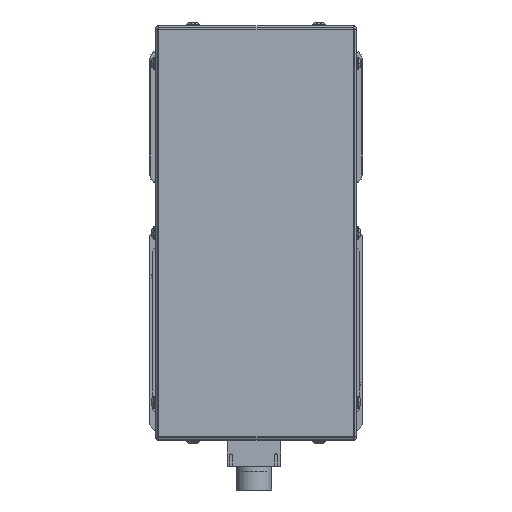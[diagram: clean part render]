
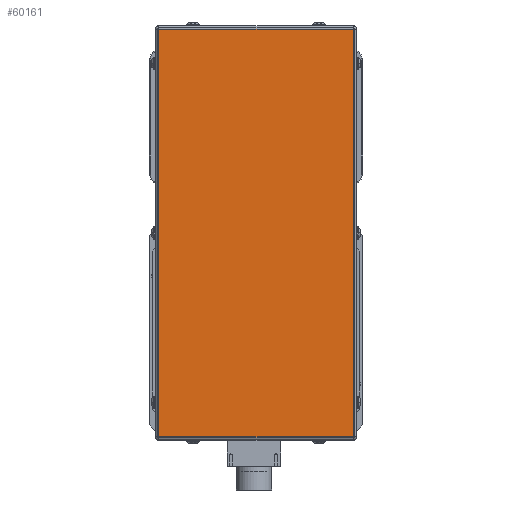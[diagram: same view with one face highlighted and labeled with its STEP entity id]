
A CAD part, front view. The second image highlights one B-rep face of the part: STEP entity #60161.
In plain terms, the highlighted planar face has unit normal (0, -1, 0).
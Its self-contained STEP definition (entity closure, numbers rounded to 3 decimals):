
#59066=DIRECTION('',(1.,0.,0.));
#59067=VECTOR('',#59066,344.);
#59068=CARTESIAN_POINT('',(-172.,-52.5,-82.));
#59069=LINE('',#59068,#59067);
#59070=DIRECTION('',(0.,0.,-1.));
#59071=VECTOR('',#59070,164.);
#59072=CARTESIAN_POINT('',(-172.,-52.5,82.));
#59073=LINE('',#59072,#59071);
#59074=DIRECTION('',(-1.,0.,0.));
#59075=VECTOR('',#59074,344.);
#59076=CARTESIAN_POINT('',(172.,-52.5,82.));
#59077=LINE('',#59076,#59075);
#59078=DIRECTION('',(0.,0.,1.));
#59079=VECTOR('',#59078,164.);
#59080=CARTESIAN_POINT('',(172.,-52.5,-82.));
#59081=LINE('',#59080,#59079);
#59938=CARTESIAN_POINT('',(-172.,-52.5,-82.));
#59939=CARTESIAN_POINT('',(172.,-52.5,-82.));
#59940=VERTEX_POINT('',#59938);
#59941=VERTEX_POINT('',#59939);
#59942=CARTESIAN_POINT('',(172.,-52.5,82.));
#59943=VERTEX_POINT('',#59942);
#59944=CARTESIAN_POINT('',(-172.,-52.5,82.));
#59945=VERTEX_POINT('',#59944);
#60146=CARTESIAN_POINT('',(0.,-52.5,0.));
#60147=DIRECTION('',(0.,1.,0.));
#60148=DIRECTION('',(1.,0.,0.));
#60149=AXIS2_PLACEMENT_3D('',#60146,#60147,#60148);
#60150=PLANE('',#60149);
#60152=ORIENTED_EDGE('',*,*,#60151,.F.);
#60154=ORIENTED_EDGE('',*,*,#60153,.F.);
#60156=ORIENTED_EDGE('',*,*,#60155,.F.);
#60158=ORIENTED_EDGE('',*,*,#60157,.F.);
#60159=EDGE_LOOP('',(#60152,#60154,#60156,#60158));
#60160=FACE_OUTER_BOUND('',#60159,.F.);
#60161=ADVANCED_FACE('',(#60160),#60150,.F.);
#60151=EDGE_CURVE('',#59940,#59941,#59069,.T.);
#60153=EDGE_CURVE('',#59945,#59940,#59073,.T.);
#60155=EDGE_CURVE('',#59943,#59945,#59077,.T.);
#60157=EDGE_CURVE('',#59941,#59943,#59081,.T.);
